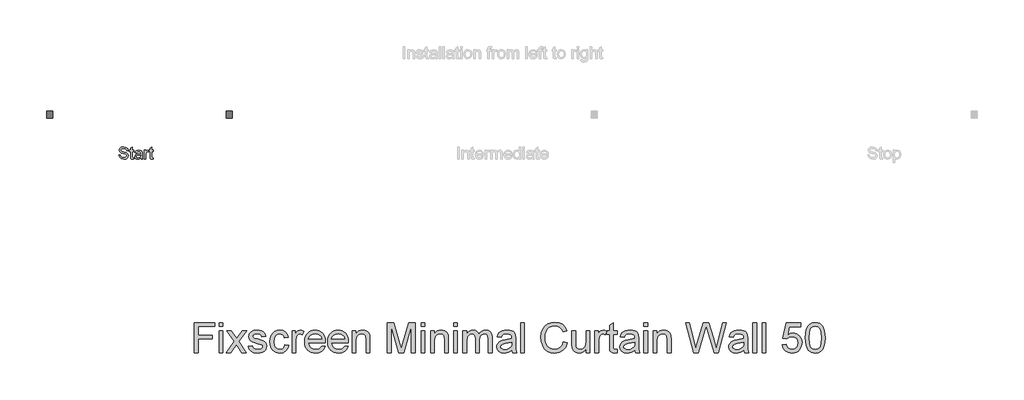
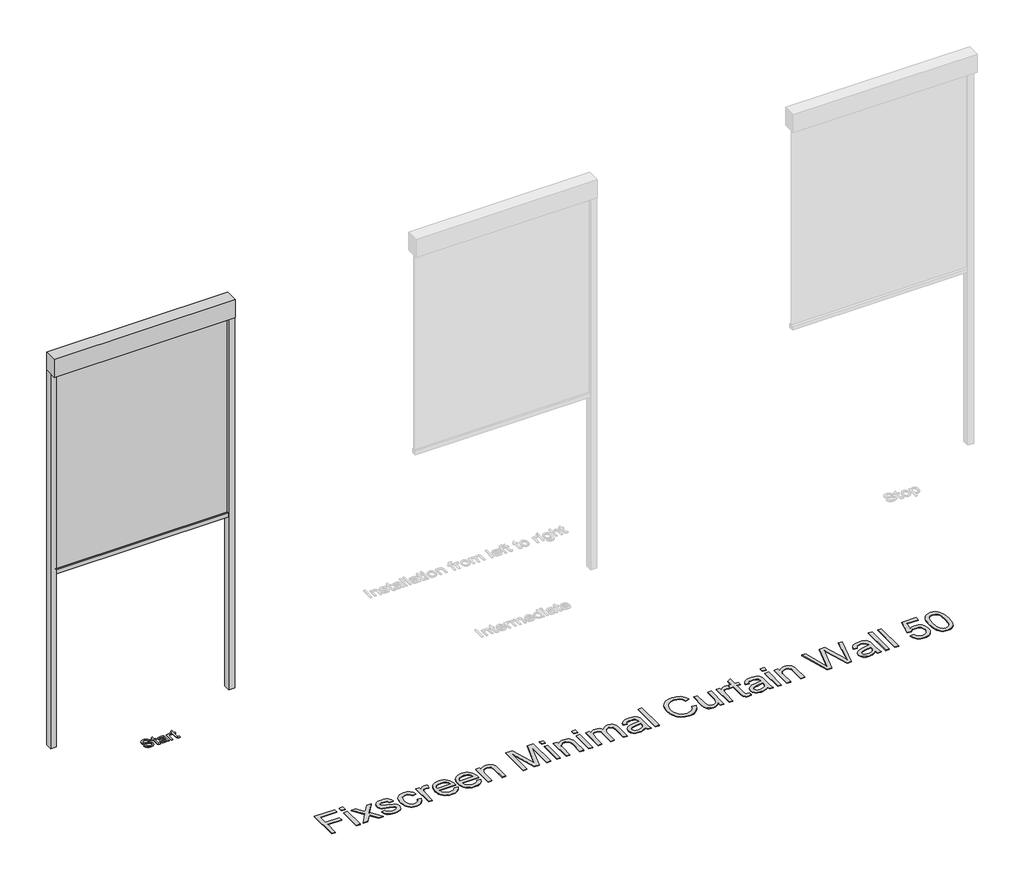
# One storey, part 2 of 8: 3 proxies.
"""IFC4 building model written with IfcOpenShell, lengths in millimetres."""

from ifc_helpers import new_model, si_unit, origin, origin_with_axes, place, context, project, spatial, polyline, outline, extrude, transform, mapped, element, save
from components import generic_models_2005cc21

model = new_model("IFC4")

# Units and contexts
model_context = context("Model", 3, world=origin())
ifc_project = project(units=[si_unit("LENGTHUNIT", "METRE", prefix="MILLI")], contexts=[model_context])

# Site, building, storey
site = spatial("IfcSite", under=ifc_project)
building = spatial("IfcBuilding", under=site)
storey = spatial("IfcBuildingStorey", under=building, Name="Fixscreen Mini CW50 Overview Top", Elevation=0.0)

# Proxies
placement = place(None, origin())
generic_models_shape = generic_models_2005cc21(model_context)
element("IfcBuildingElementProxy", 1, Name="Renson_Fixscreen_Minimal_CW50_Start : For curtain wall - Start element - Access downwards - Fabric close to the window", ObjectType="Renson_Fixscreen_Minimal_CW50_Start : For curtain wall - Start element - Access downwards - Fabric close to the window", at=placement, inside=storey, context=model_context, shape_type="MappedRepresentation", body=[
    mapped(generic_models_shape, transform((-7113.6521319, -2499.9217625, 0.0), x_axis=(1.0000000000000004, 0.0, 0.0), y_axis=(0.0, 1.0000000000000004, 0.0), z_axis=(0.0, 0.0, 1.0))),
])
element("IfcBuildingElementProxy", 2, Name="100mm Arial", ObjectType="100mm Arial", at=placement, inside=storey, context=model_context, shape_type="SweptSolid", body=[
    extrude(outline(polyline([(-7528.8311252, -3561.5189543), (-7516.2740864, -3561.5189543), (-7512.2273845, -3574.0882558), (-7502.3436216, -3582.0345069), (-7487.2849852, -3585.063402), (-7474.1638607, -3582.7702709), (-7465.6903121, -3576.467226), (-7462.9066717, -3568.0427284), (-7464.9913363, -3560.2068419), (-7473.5261986, -3554.5046709), (-7491.8099338, -3549.7099423), (-7511.4916205, -3543.517262), (-7522.1724611, -3534.1730593), (-7525.6918655, -3521.689597), (-7521.3385952, -3507.4770892), (-7508.6221409, -3497.4461735), (-7490.007312, -3494.0248709), (-7470.1416842, -3497.605589), (-7456.8979324, -3508.1270141), (-7451.9192628, -3523.847838), (-7464.4763015, -3523.847838), (-7466.7816954, -3516.355308), (-7471.5886868, -3510.9474427), (-7489.5168027, -3506.5819097), (-7507.4939695, -3510.8983918), (-7513.1348267, -3521.321715), (-7509.1371757, -3530.0282555), (-7488.6338859, -3537.0425389), (-7466.4138134, -3543.3455837), (-7454.2614448, -3553.5236523), (-7450.3496329, -3567.7238973), (-7454.850056, -3582.7457454), (-7467.7995022, -3593.7086289), (-7486.7944759, -3597.6204408), (-7509.2230149, -3593.4020606), (-7523.4109971, -3580.697869), (-7528.8311252, -3561.5189543)])), origin_with_axes(), (0.0, 0.0, 1.0), 5.0),
    extrude(outline(polyline([(-7406.3999972, -3585.5784368), (-7404.8303674, -3596.4186929), (-7414.223621, -3597.6204408), (-7424.745046, -3595.5357761), (-7429.9934958, -3590.0665971), (-7431.5140748, -3575.8173012), (-7431.5140748, -3534.8352469), (-7440.9318538, -3534.8352469), (-7440.9318538, -3522.2782082), (-7431.5140748, -3522.2782082), (-7431.5140748, -3504.3500923), (-7418.957036, -3496.9679269), (-7418.957036, -3522.2782082), (-7406.3999972, -3522.2782082), (-7406.3999972, -3534.8352469), (-7418.957036, -3534.8352469), (-7418.957036, -3575.4494192), (-7418.2948484, -3581.9241423), (-7416.1488701, -3584.2172734), (-7411.8691762, -3585.063402), (-7406.3999972, -3585.5784368)])), origin_with_axes(), (0.0, 0.0, 1.0), 5.0),
    extrude(outline(polyline([(-7346.7540631, -3586.6330318), (-7358.9309571, -3595.1433687), (-7372.3831754, -3597.6204408), (-7382.8770093, -3596.1305187), (-7390.6178596, -3591.6607524), (-7395.3911285, -3584.8733296), (-7396.9822181, -3576.4304378), (-7394.5787224, -3566.497624), (-7388.2634149, -3559.2871369), (-7379.4710352, -3555.1668585), (-7368.6062536, -3553.2783976), (-7346.8276395, -3548.9619155), (-7346.7540631, -3546.1660124), (-7350.2121538, -3536.8953861), (-7364.0935678, -3533.2656171), (-7376.7977593, -3535.6813755), (-7382.8555495, -3544.253026), (-7395.4125883, -3542.6833961), (-7389.9801975, -3530.420663), (-7379.0418395, -3523.2347013), (-7362.474887, -3520.7085783), (-7347.2568351, -3522.9403957), (-7338.6606592, -3528.5444648), (-7334.810161, -3537.0670644), (-7334.1970243, -3548.0544733), (-7334.1970243, -3563.6771953), (-7333.5593622, -3585.4925977), (-7331.0577646, -3596.0508109), (-7343.6148034, -3596.0508109), (-7346.7540631, -3586.6330318)]), holes=[polyline([(-7346.7540631, -3561.5189543), (-7367.0120983, -3565.3694525), (-7377.8155662, -3567.4050662), (-7382.7083967, -3570.7160042), (-7384.4251794, -3575.5475211), (-7380.6850458, -3582.3410752), (-7369.7098996, -3585.063402), (-7357.005708, -3582.0590324), (-7348.8142022, -3574.7872316), (-7346.8276395, -3565.0751469), (-7346.7540631, -3561.5189543)])]), origin_with_axes(), (0.0, 0.0, 1.0), 5.0),
    extrude(outline(polyline([(-7316.931096, -3596.0508109), (-7316.931096, -3522.2782082), (-7305.9436871, -3522.2782082), (-7305.9436871, -3533.1920407), (-7298.1445888, -3523.1365995), (-7290.2964395, -3520.7085783), (-7277.6903498, -3524.583602), (-7281.8842046, -3535.840791), (-7290.7133725, -3533.2656171), (-7297.813495, -3535.7426892), (-7302.3384435, -3542.6098198), (-7304.3740572, -3557.2760486), (-7304.3740572, -3596.0508109), (-7316.931096, -3596.0508109)])), origin_with_axes(), (0.0, 0.0, 1.0), 5.0),
    extrude(outline(polyline([(-7243.1584932, -3585.5784368), (-7241.5888634, -3596.4186929), (-7250.982117, -3597.6204408), (-7261.503542, -3595.5357761), (-7266.7519918, -3590.0665971), (-7268.2725708, -3575.8173012), (-7268.2725708, -3534.8352469), (-7277.6903498, -3534.8352469), (-7277.6903498, -3522.2782082), (-7268.2725708, -3522.2782082), (-7268.2725708, -3504.3500923), (-7255.715532, -3496.9679269), (-7255.715532, -3522.2782082), (-7243.1584932, -3522.2782082), (-7243.1584932, -3534.8352469), (-7255.715532, -3534.8352469), (-7255.715532, -3575.4494192), (-7255.0533444, -3581.9241423), (-7252.9073661, -3584.2172734), (-7248.6276722, -3585.063402), (-7243.1584932, -3585.5784368)])), origin_with_axes(), (0.0, 0.0, 1.0), 5.0),
])
element("IfcBuildingElementProxy", 3, Name="250mm Arial", ObjectType="250mm Arial", at=placement, inside=storey, context=model_context, shape_type="SweptSolid", body=[
    extrude(outline(polyline([(-6898.9749645, -5215.1378577), (-6898.9749645, -4963.9970823), (-6730.2397561, -4963.9970823), (-6730.2397561, -4995.3896792), (-6867.5823676, -4995.3896792), (-6867.5823676, -5069.9470969), (-6749.8601291, -5069.9470969), (-6749.8601291, -5101.3396938), (-6867.5823676, -5101.3396938), (-6867.5823676, -5215.1378577), (-6898.9749645, -5215.1378577)])), origin_with_axes(), (0.0, 0.0, 1.0), 5.0),
    extrude(outline(polyline([(-6690.9990099, -5215.1378577), (-6690.9990099, -5030.7063507), (-6659.606413, -5030.7063507), (-6659.606413, -5215.1378577), (-6690.9990099, -5215.1378577)])), origin_with_axes(), (0.0, 0.0, 1.0), 5.0),
    extrude(outline(polyline([(-6690.9990099, -4995.3896792), (-6690.9990099, -4963.9970823), (-6659.606413, -4963.9970823), (-6659.606413, -4995.3896792), (-6690.9990099, -4995.3896792)])), origin_with_axes(), (0.0, 0.0, 1.0), 5.0),
    extrude(outline(polyline([(-6632.1378907, -5215.1378577), (-6565.0607402, -5122.4315949), (-6628.2138161, -5030.7063507), (-6590.4445979, -5030.7063507), (-6559.971706, -5074.8521902), (-6545.7469355, -5095.6988366), (-6533.4228886, -5078.6536374), (-6498.7193538, -5030.7063507), (-6460.9501356, -5030.7063507), (-6527.291522, -5122.4315949), (-6463.4026822, -5215.1378577), (-6501.1719004, -5215.1378577), (-6539.6155689, -5159.4037354), (-6546.6666405, -5149.2256669), (-6594.3686725, -5215.1378577), (-6632.1378907, -5215.1378577)])), origin_with_axes(), (0.0, 0.0, 1.0), 5.0),
    extrude(outline(polyline([(-6447.7063838, -5160.200813), (-6416.3137868, -5156.2767384), (-6411.3627083, -5169.7044313), (-6401.782448, -5179.5759315), (-6387.5116923, -5185.6459844), (-6368.4891275, -5187.6693353), (-6349.6964889, -5185.814597), (-6336.4833939, -5180.2503818), (-6328.6659015, -5172.1876347), (-6326.0600707, -5162.8373007), (-6328.6812299, -5154.8358673), (-6336.5447076, -5148.7351575), (-6368.8570095, -5139.7833623), (-6416.1298458, -5124.424289), (-6428.0936749, -5116.7064313), (-6436.7618944, -5106.4900417), (-6442.0272055, -5094.426578), (-6443.7823091, -5081.1674977), (-6438.1414519, -5057.7763342), (-6422.7517218, -5039.9034006), (-6402.7941235, -5030.6143802), (-6375.7854537, -5026.7822761), (-6355.3526746, -5028.322782), (-6337.5870399, -5032.9442995), (-6323.3009557, -5040.1946405), (-6313.3068282, -5049.6216167), (-6306.6849523, -5061.9226709), (-6302.515623, -5077.7952461), (-6333.9082199, -5081.7193207), (-6337.8706156, -5071.8401563), (-6345.7111006, -5064.3982101), (-6357.5063171, -5059.7307073), (-6373.3329071, -5058.174873), (-6391.3591248, -5059.6617294), (-6403.3766033, -5064.1222986), (-6410.136435, -5070.5602336), (-6412.3897122, -5077.9791871), (-6408.6495786, -5087.1149233), (-6396.9386684, -5094.0433676), (-6369.8993418, -5100.7265572), (-6323.8221219, -5115.5031506), (-6311.6513592, -5122.5695506), (-6302.4236525, -5132.2417814), (-6296.6065184, -5144.5504998), (-6294.6674738, -5159.5263627), (-6296.9437436, -5175.0080633), (-6303.7725531, -5189.570059), (-6314.8933193, -5202.0703826), (-6330.045459, -5211.3670672), (-6348.3475882, -5217.138216), (-6368.9183231, -5219.0619323), (-6400.5715031, -5215.3524555), (-6423.6714267, -5204.2240251), (-6439.0918137, -5185.7992685), (-6447.7063838, -5160.200813)])), origin_with_axes(), (0.0, 0.0, 1.0), 5.0),
    extrude(outline(polyline([(-6141.6285638, -5148.4285892), (-6110.2359669, -5152.3526638), (-6118.9884927, -5180.2733744), (-6135.4358835, -5201.3729397), (-6158.0299694, -5214.6396841), (-6185.2225802, -5219.0619323), (-6202.8291826, -5217.5195104), (-6218.6155355, -5212.8922446), (-6232.5816389, -5205.1801351), (-6244.7274929, -5194.3831818), (-6254.558756, -5180.7044861), (-6261.5810868, -5164.3471497), (-6267.1989515, -5123.5965545), (-6264.8000543, -5095.6605155), (-6257.6033628, -5071.4492817), (-6245.4939137, -5051.8978865), (-6228.3567441, -5037.9413633), (-6207.8549871, -5029.5720479), (-6185.6517759, -5026.7822761), (-6159.1259512, -5030.6143802), (-6137.919087, -5042.1106926), (-6122.7056336, -5060.6580765), (-6114.1600415, -5085.6433954), (-6145.5526384, -5089.56747), (-6151.2471451, -5075.8715299), (-6160.114634, -5066.0536791), (-6171.6645958, -5060.1445746), (-6185.4065212, -5058.174873), (-6205.6936804, -5062.0529624), (-6221.7961819, -5073.6872305), (-6232.3038114, -5093.7061424), (-6235.8063545, -5122.7381632), (-6232.3804535, -5152.1610586), (-6222.1027502, -5172.2489484), (-6206.2914886, -5183.8142386), (-6186.2649125, -5187.6693353), (-6170.0091269, -5185.262774), (-6156.6810687, -5178.0430898), (-6146.9858453, -5165.8263419), (-6141.6285638, -5148.4285892)])), origin_with_axes(), (0.0, 0.0, 1.0), 5.0),
    extrude(outline(polyline([(-6082.7674445, -5215.1378577), (-6082.7674445, -5030.7063507), (-6055.2989222, -5030.7063507), (-6055.2989222, -5057.990932), (-6045.1515105, -5042.1720063), (-6035.8011765, -5032.852329), (-6016.1808034, -5026.7822761), (-6000.5458186, -5029.2041659), (-5984.6655792, -5036.4698353), (-5995.150216, -5064.612808), (-6017.2231357, -5058.174873), (-6026.5964624, -5059.7230431), (-6034.973442, -5064.3675533), (-6046.2858134, -5081.5353797), (-6051.3748476, -5118.2009519), (-6051.3748476, -5215.1378577), (-6082.7674445, -5215.1378577)])), origin_with_axes(), (0.0, 0.0, 1.0), 5.0),
    extrude(outline(polyline([(-5835.9186258, -5160.200813), (-5805.1391655, -5164.1248877), (-5816.2292748, -5187.3167818), (-5833.9259316, -5204.6532208), (-5857.8305971, -5215.4597544), (-5887.5447324, -5219.0619323), (-5907.0233177, -5217.5080141), (-5924.3789172, -5212.8462594), (-5939.6115311, -5205.0766683), (-5952.7211592, -5194.1992408), (-5963.2632777, -5180.516713), (-5970.7933623, -5164.3318213), (-5975.311413, -5145.6445656), (-5976.8174299, -5124.4549458), (-5975.2960846, -5102.5468066), (-5970.7320486, -5083.236834), (-5963.1253219, -5066.5250279), (-5952.4759046, -5052.4113885), (-5939.4007653, -5041.1986518), (-5924.516873, -5033.1895542), (-5907.8242274, -5028.3840956), (-5889.3228287, -5026.7822761), (-5871.4173223, -5028.3802635), (-5855.2247663, -5033.1742258), (-5840.7451609, -5041.1641629), (-5827.9785061, -5052.3500748), (-5817.5570989, -5066.4330574), (-5810.1132367, -5083.1142066), (-5805.6469193, -5102.3935224), (-5804.1581469, -5124.2710048), (-5804.3420879, -5132.7322907), (-5945.424833, -5132.7322907), (-5939.9909094, -5156.2307532), (-5927.3679584, -5173.5058785), (-5909.1501354, -5184.1284711), (-5886.9315958, -5187.6693353), (-5870.2236218, -5186.0291948), (-5856.1521355, -5181.1087731), (-5844.7171368, -5172.601502), (-5835.9186258, -5160.200813)]), holes=[polyline([(-5945.424833, -5101.3396938), (-5835.5507438, -5101.3396938), (-5839.7967151, -5084.7543472), (-5848.1200453, -5072.8901529), (-5866.4221745, -5061.853693), (-5889.4454561, -5058.174873), (-5910.606335, -5061.1102648), (-5928.1037224, -5069.9164401), (-5940.2668209, -5083.643037), (-5945.424833, -5101.3396938)])]), origin_with_axes(), (0.0, 0.0, 1.0), 5.0),
    extrude(outline(polyline([(-5643.6389696, -5160.200813), (-5612.8595094, -5164.1248877), (-5623.9496187, -5187.3167818), (-5641.6462755, -5204.6532208), (-5665.550941, -5215.4597544), (-5695.2650763, -5219.0619323), (-5714.7436615, -5217.5080141), (-5732.0992611, -5212.8462594), (-5747.3318749, -5205.0766683), (-5760.4415031, -5194.1992408), (-5770.9836215, -5180.516713), (-5778.5137061, -5164.3318213), (-5783.0317569, -5145.6445656), (-5784.5377738, -5124.4549458), (-5783.0164285, -5102.5468066), (-5778.4523925, -5083.236834), (-5770.8456658, -5066.5250279), (-5760.1962484, -5052.4113885), (-5747.1211092, -5041.1986518), (-5732.2372168, -5033.1895542), (-5715.5445713, -5028.3840956), (-5697.0431726, -5026.7822761), (-5679.1376661, -5028.3802635), (-5662.9451102, -5033.1742258), (-5648.4655048, -5041.1641629), (-5635.6988499, -5052.3500748), (-5625.2774428, -5066.4330574), (-5617.8335805, -5083.1142066), (-5613.3672632, -5102.3935224), (-5611.8784907, -5124.2710048), (-5612.0624317, -5132.7322907), (-5753.1451769, -5132.7322907), (-5747.7112532, -5156.2307532), (-5735.0883023, -5173.5058785), (-5716.8704793, -5184.1284711), (-5694.6519396, -5187.6693353), (-5677.9439657, -5186.0291948), (-5663.8724794, -5181.1087731), (-5652.4374807, -5172.601502), (-5643.6389696, -5160.200813)]), holes=[polyline([(-5753.1451769, -5101.3396938), (-5643.2710876, -5101.3396938), (-5647.517059, -5084.7543472), (-5655.8403891, -5072.8901529), (-5674.1425184, -5061.853693), (-5697.1657999, -5058.174873), (-5718.3266789, -5061.1102648), (-5735.8240663, -5069.9164401), (-5747.9871647, -5083.643037), (-5753.1451769, -5101.3396938)])]), origin_with_axes(), (0.0, 0.0, 1.0), 5.0),
    extrude(outline(polyline([(-5580.4858938, -5215.1378577), (-5580.4858938, -5030.7063507), (-5549.0932969, -5030.7063507), (-5549.0932969, -5056.4580904), (-5538.1871286, -5043.4749217), (-5525.0889967, -5034.2012297), (-5509.7989013, -5028.6370145), (-5492.3168423, -5026.7822761), (-5476.8428059, -5028.2767967), (-5462.6716848, -5032.7603585), (-5450.8534757, -5039.6734744), (-5442.4381751, -5048.456657), (-5433.0265274, -5071.5412522), (-5431.3710584, -5101.8915168), (-5431.3710584, -5215.1378577), (-5462.7636553, -5215.1378577), (-5462.7636553, -5106.1221598), (-5466.3811616, -5078.3470691), (-5471.3858896, -5070.0773884), (-5479.165061, -5063.6624461), (-5500.7168145, -5058.174873), (-5519.1032501, -5061.2558848), (-5534.7765559, -5070.4989199), (-5545.5141116, -5088.3565251), (-5549.0932969, -5117.2812469), (-5549.0932969, -5215.1378577), (-5580.4858938, -5215.1378577)])), origin_with_axes(), (0.0, 0.0, 1.0), 5.0),
    extrude(outline(polyline([(-5286.1802977, -5215.1378577), (-5286.1802977, -4963.9970823), (-5232.162958, -4963.9970823), (-5180.782106, -5141.0096356), (-5170.4200965, -5177.9817761), (-5159.1996957, -5137.9439523), (-5108.677235, -4963.9970823), (-5054.6598954, -4963.9970823), (-5054.6598954, -5215.1378577), (-5086.0524923, -5215.1378577), (-5086.0524923, -4995.3896792), (-5149.1442545, -5215.1378577), (-5191.6959386, -5215.1378577), (-5254.7877007, -4995.3896792), (-5254.7877007, -5215.1378577), (-5286.1802977, -5215.1378577)])), origin_with_axes(), (0.0, 0.0, 1.0), 5.0),
    extrude(outline(polyline([(-5003.6469254, -5215.1378577), (-5003.6469254, -5030.7063507), (-4972.2543284, -5030.7063507), (-4972.2543284, -5215.1378577), (-5003.6469254, -5215.1378577)])), origin_with_axes(), (0.0, 0.0, 1.0), 5.0),
    extrude(outline(polyline([(-5003.6469254, -4995.3896792), (-5003.6469254, -4963.9970823), (-4972.2543284, -4963.9970823), (-4972.2543284, -4995.3896792), (-5003.6469254, -4995.3896792)])), origin_with_axes(), (0.0, 0.0, 1.0), 5.0),
    extrude(outline(polyline([(-4925.1654331, -5215.1378577), (-4925.1654331, -5030.7063507), (-4893.7728361, -5030.7063507), (-4893.7728361, -5056.4580904), (-4882.8666678, -5043.4749217), (-4869.7685359, -5034.2012297), (-4854.4784405, -5028.6370145), (-4836.9963815, -5026.7822761), (-4821.5223451, -5028.2767967), (-4807.3512241, -5032.7603585), (-4795.533015, -5039.6734744), (-4787.1177144, -5048.456657), (-4777.7060667, -5071.5412522), (-4776.0505977, -5101.8915168), (-4776.0505977, -5215.1378577), (-4807.4431946, -5215.1378577), (-4807.4431946, -5106.1221598), (-4811.0607009, -5078.3470691), (-4816.0654289, -5070.0773884), (-4823.8446002, -5063.6624461), (-4845.3963538, -5058.174873), (-4863.7827893, -5061.2558848), (-4879.4560952, -5070.4989199), (-4890.1936509, -5088.3565251), (-4893.7728361, -5117.2812469), (-4893.7728361, -5215.1378577), (-4925.1654331, -5215.1378577)])), origin_with_axes(), (0.0, 0.0, 1.0), 5.0),
    extrude(outline(polyline([(-4732.8857769, -5215.1378577), (-4732.8857769, -5030.7063507), (-4701.49318, -5030.7063507), (-4701.49318, -5215.1378577), (-4732.8857769, -5215.1378577)])), origin_with_axes(), (0.0, 0.0, 1.0), 5.0),
    extrude(outline(polyline([(-4732.8857769, -4995.3896792), (-4732.8857769, -4963.9970823), (-4701.49318, -4963.9970823), (-4701.49318, -4995.3896792), (-4732.8857769, -4995.3896792)])), origin_with_axes(), (0.0, 0.0, 1.0), 5.0),
    extrude(outline(polyline([(-4654.4042846, -5215.1378577), (-4654.4042846, -5030.7063507), (-4623.0116877, -5030.7063507), (-4623.0116877, -5061.0566153), (-4613.5693831, -5047.1154206), (-4601.4292773, -5036.1939238), (-4587.0052374, -5029.1351881), (-4570.7111307, -5026.7822761), (-4553.2520643, -5029.1811733), (-4539.2572201, -5036.3778648), (-4528.8032401, -5047.8971698), (-4521.9667663, -5063.2639073), (-4510.5241034, -5047.3031937), (-4497.4719568, -5035.9026839), (-4482.8103265, -5029.0623781), (-4466.5392124, -5026.7822761), (-4442.9411153, -5030.5760592), (-4425.4897131, -5041.9574084), (-4414.7061721, -5061.2328921), (-4411.1116585, -5088.7090786), (-4411.1116585, -5215.1378577), (-4442.5042554, -5215.1378577), (-4442.5042554, -5102.1980851), (-4445.4166545, -5075.986493), (-4455.962605, -5063.0799663), (-4473.8968523, -5058.174873), (-4490.9037304, -5061.3171984), (-4504.7682831, -5070.7441745), (-4513.9883256, -5087.0995949), (-4517.0616731, -5111.027253), (-4517.0616731, -5215.1378577), (-4548.45427, -5215.1378577), (-4548.45427, -5098.7032062), (-4550.2706873, -5080.9528999), (-4555.7199394, -5068.2916279), (-4565.3078639, -5060.7040618), (-4579.5402986, -5058.174873), (-4591.6344192, -5059.8609989), (-4602.7781779, -5064.9193763), (-4611.9752278, -5073.227378), (-4618.2292217, -5084.6623767), (-4623.0116877, -5122.1250265), (-4623.0116877, -5215.1378577), (-4654.4042846, -5215.1378577)])), origin_with_axes(), (0.0, 0.0, 1.0), 5.0),
    extrude(outline(polyline([(-4246.3005246, -5191.59341), (-4261.2993801, -5204.4539514), (-4276.7427597, -5212.869252), (-4292.983217, -5217.5137622), (-4310.3733054, -5219.0619323), (-4336.6078902, -5215.3371271), (-4355.960016, -5204.1627115), (-4367.8931882, -5187.1941544), (-4371.8709123, -5166.086925), (-4370.3687275, -5153.0730994), (-4365.8621731, -5141.2548903), (-4350.0739041, -5123.2286725), (-4328.0929549, -5112.9279767), (-4300.9310009, -5108.2068244), (-4246.4844656, -5097.4156192), (-4246.3005246, -5090.4258613), (-4248.4618313, -5076.4156886), (-4254.9457515, -5067.2492956), (-4269.4464335, -5060.4434787), (-4289.6492864, -5058.174873), (-4308.3499545, -5059.6847221), (-4321.4097653, -5064.2142691), (-4330.3155753, -5072.5912487), (-4336.5542408, -5085.6433954), (-4367.9468377, -5081.7193207), (-4362.4975856, -5064.5514943), (-4354.3658607, -5051.0624878), (-4342.7929063, -5040.7464635), (-4327.0199657, -5033.0975837), (-4307.7291536, -5028.361103), (-4285.6025844, -5026.7822761), (-4264.3803918, -5028.177162), (-4247.5574548, -5032.3618197), (-4234.8731901, -5038.6541347), (-4226.0670149, -5046.3719924), (-4216.4407693, -5067.6784913), (-4214.9079277, -5095.1470136), (-4214.9079277, -5134.2038187), (-4213.3137724, -5188.7423245), (-4207.0597785, -5215.1378577), (-4238.4523754, -5215.1378577), (-4246.3005246, -5191.59341)]), holes=[polyline([(-4246.3005246, -5128.8082161), (-4296.9456126, -5138.4344617), (-4323.9542824, -5143.5234959), (-4336.1863588, -5151.8008408), (-4340.4783154, -5163.879633), (-4338.1407319, -5173.2146386), (-4331.1279813, -5180.8635184), (-4319.593348, -5185.9678811), (-4303.6901159, -5187.6693353), (-4286.8288578, -5185.7916043), (-4271.929637, -5180.1584113), (-4259.8508448, -5171.8580738), (-4251.4508726, -5161.9789094), (-4247.7260674, -5151.8008408), (-4246.4844656, -5137.6986977), (-4246.3005246, -5128.8082161)])]), origin_with_axes(), (0.0, 0.0, 1.0), 5.0),
    extrude(outline(polyline([(-4171.7431069, -5215.1378577), (-4171.7431069, -4963.9970823), (-4140.35051, -4963.9970823), (-4140.35051, -5215.1378577), (-4171.7431069, -5215.1378577)])), origin_with_axes(), (0.0, 0.0, 1.0), 5.0),
    extrude(outline(polyline([(-3814.6523169, -5125.8651602), (-3783.25972, -5133.9585641), (-3797.7450736, -5170.5398299), (-3820.4771152, -5197.2649241), (-3850.3368705, -5213.6126802), (-3886.205365, -5219.0619323), (-3922.6180183, -5214.9385882), (-3951.535076, -5202.5685562), (-3973.6999662, -5182.3810317), (-3989.8561172, -5154.8052104), (-3999.7199531, -5122.3856096), (-4003.0078985, -5087.6667463), (-3999.2907575, -5051.0471594), (-3988.1393345, -5019.4246362), (-3970.1361094, -4993.8031881), (-3945.8635619, -4975.1868263), (-3917.0767958, -4963.8514623), (-3885.5309147, -4960.0730077), (-3851.1109555, -4964.9627725), (-3822.6537503, -4979.6320671), (-3801.0483473, -5003.1765148), (-3787.1837946, -5034.691739), (-3818.5763916, -5042.1720063), (-3829.4595673, -5019.2790163), (-3844.3281312, -5003.5750536), (-3863.3660245, -4994.4929668), (-3886.757188, -4991.4656046), (-3913.7198726, -4994.8225278), (-3935.8694344, -5004.8932974), (-3952.677043, -5020.6202527), (-3963.6138682, -5040.9457329), (-3969.6149432, -5063.9230292), (-3971.6153016, -5087.6054327), (-3969.2470612, -5116.6067966), (-3962.1423402, -5141.684086), (-3950.0328912, -5161.8792746), (-3932.6504669, -5176.2343367), (-3911.8114847, -5184.8105857), (-3889.332362, -5187.6693353), (-3863.128434, -5183.7759176), (-3841.2931048, -5172.0956642), (-3824.8073929, -5152.7512026), (-3814.6523169, -5125.8651602)])), origin_with_axes(), (0.0, 0.0, 1.0), 5.0),
    extrude(outline(polyline([(-3626.2967354, -5215.1378577), (-3626.2967354, -5183.4386924), (-3637.655092, -5199.0238598), (-3650.8835154, -5210.1561223), (-3665.9820056, -5216.8354798), (-3682.9505627, -5219.0619323), (-3698.2406581, -5217.4984338), (-3712.4730928, -5212.8079384), (-3724.4139292, -5205.7568668), (-3732.8292299, -5197.1116399), (-3742.1795639, -5173.9963879), (-3744.0189739, -5144.8110829), (-3744.0189739, -5030.7063507), (-3712.626377, -5030.7063507), (-3712.626377, -5130.0344894), (-3710.7256533, -5162.040223), (-3706.150121, -5172.7164651), (-3698.309636, -5180.8328616), (-3687.7253644, -5185.9602169), (-3674.9184724, -5187.6693353), (-3661.3758165, -5185.9218959), (-3648.7068803, -5180.6795774), (-3638.2605645, -5172.4252252), (-3631.3857697, -5161.6416842), (-3627.568994, -5146.8727549), (-3626.2967354, -5126.6622378), (-3626.2967354, -5030.7063507), (-3594.9041385, -5030.7063507), (-3594.9041385, -5215.1378577), (-3626.2967354, -5215.1378577)])), origin_with_axes(), (0.0, 0.0, 1.0), 5.0),
    extrude(outline(polyline([(-3551.7393177, -5215.1378577), (-3551.7393177, -5030.7063507), (-3524.2707954, -5030.7063507), (-3524.2707954, -5057.990932), (-3514.1233837, -5042.1720063), (-3504.7730497, -5032.852329), (-3485.1526766, -5026.7822761), (-3469.5176918, -5029.2041659), (-3453.6374523, -5036.4698353), (-3464.1220892, -5064.612808), (-3486.1950089, -5058.174873), (-3495.5683356, -5059.7230431), (-3503.9453152, -5064.3675533), (-3515.2576865, -5081.5353797), (-3520.3467208, -5118.2009519), (-3520.3467208, -5215.1378577), (-3551.7393177, -5215.1378577)])), origin_with_axes(), (0.0, 0.0, 1.0), 5.0),
    extrude(outline(polyline([(-3367.3078108, -5188.9569223), (-3363.3837362, -5216.0575626), (-3386.8668702, -5219.0619323), (-3401.9347036, -5217.7590169), (-3413.1704329, -5213.8502707), (-3426.2915574, -5200.1773232), (-3430.0930047, -5164.5540833), (-3430.0930047, -5062.0989477), (-3453.6374523, -5062.0989477), (-3453.6374523, -5030.7063507), (-3430.0930047, -5030.7063507), (-3430.0930047, -4985.886061), (-3398.7004077, -4967.4306476), (-3398.7004077, -5030.7063507), (-3367.3078108, -5030.7063507), (-3367.3078108, -5062.0989477), (-3398.7004077, -5062.0989477), (-3398.7004077, -5163.6343783), (-3397.0449388, -5179.8211861), (-3391.679993, -5185.5540139), (-3380.9807583, -5187.6693353), (-3367.3078108, -5188.9569223)])), origin_with_axes(), (0.0, 0.0, 1.0), 5.0),
    extrude(outline(polyline([(-3218.1929754, -5191.59341), (-3233.1918309, -5204.4539514), (-3248.6352105, -5212.869252), (-3264.8756678, -5217.5137622), (-3282.2657563, -5219.0619323), (-3308.500341, -5215.3371271), (-3327.8524668, -5204.1627115), (-3339.785639, -5187.1941544), (-3343.7633631, -5166.086925), (-3342.2611783, -5153.0730994), (-3337.7546239, -5141.2548903), (-3321.9663549, -5123.2286725), (-3299.9854057, -5112.9279767), (-3272.8234517, -5108.2068244), (-3218.3769164, -5097.4156192), (-3218.1929754, -5090.4258613), (-3220.3542822, -5076.4156886), (-3226.8382023, -5067.2492956), (-3241.3388843, -5060.4434787), (-3261.5417372, -5058.174873), (-3280.2424053, -5059.6847221), (-3293.3022161, -5064.2142691), (-3302.2080261, -5072.5912487), (-3308.4466916, -5085.6433954), (-3339.8392885, -5081.7193207), (-3334.3900365, -5064.5514943), (-3326.2583115, -5051.0624878), (-3314.6853571, -5040.7464635), (-3298.9124165, -5033.0975837), (-3279.6216044, -5028.361103), (-3257.4950353, -5026.7822761), (-3236.2728427, -5028.177162), (-3219.4499056, -5032.3618197), (-3206.765641, -5038.6541347), (-3197.9594657, -5046.3719924), (-3188.3332202, -5067.6784913), (-3186.8003785, -5095.1470136), (-3186.8003785, -5134.2038187), (-3185.2062232, -5188.7423245), (-3178.9522293, -5215.1378577), (-3210.3448262, -5215.1378577), (-3218.1929754, -5191.59341)]), holes=[polyline([(-3218.1929754, -5128.8082161), (-3268.8380634, -5138.4344617), (-3295.8467332, -5143.5234959), (-3308.0788096, -5151.8008408), (-3312.3707662, -5163.879633), (-3310.0331827, -5173.2146386), (-3303.0204322, -5180.8635184), (-3291.4857988, -5185.9678811), (-3275.5825667, -5187.6693353), (-3258.7213086, -5185.7916043), (-3243.8220878, -5180.1584113), (-3231.7432956, -5171.8580738), (-3223.3433234, -5161.9789094), (-3219.6185182, -5151.8008408), (-3218.3769164, -5137.6986977), (-3218.1929754, -5128.8082161)])]), origin_with_axes(), (0.0, 0.0, 1.0), 5.0),
    extrude(outline(polyline([(-3143.6355577, -5215.1378577), (-3143.6355577, -5030.7063507), (-3112.2429608, -5030.7063507), (-3112.2429608, -5215.1378577), (-3143.6355577, -5215.1378577)])), origin_with_axes(), (0.0, 0.0, 1.0), 5.0),
    extrude(outline(polyline([(-3143.6355577, -4995.3896792), (-3143.6355577, -4963.9970823), (-3112.2429608, -4963.9970823), (-3112.2429608, -4995.3896792), (-3143.6355577, -4995.3896792)])), origin_with_axes(), (0.0, 0.0, 1.0), 5.0),
    extrude(outline(polyline([(-3065.1540654, -5215.1378577), (-3065.1540654, -5030.7063507), (-3033.7614685, -5030.7063507), (-3033.7614685, -5056.4580904), (-3022.8553002, -5043.4749217), (-3009.7571683, -5034.2012297), (-2994.4670729, -5028.6370145), (-2976.9850139, -5026.7822761), (-2961.5109775, -5028.2767967), (-2947.3398565, -5032.7603585), (-2935.5216474, -5039.6734744), (-2927.1063468, -5048.456657), (-2917.694699, -5071.5412522), (-2916.0392301, -5101.8915168), (-2916.0392301, -5215.1378577), (-2947.431827, -5215.1378577), (-2947.431827, -5106.1221598), (-2951.0493333, -5078.3470691), (-2956.0540612, -5070.0773884), (-2963.8332326, -5063.6624461), (-2985.3849862, -5058.174873), (-3003.7714217, -5061.2558848), (-3019.4447275, -5070.4989199), (-3030.1822833, -5088.3565251), (-3033.7614685, -5117.2812469), (-3033.7614685, -5215.1378577), (-3065.1540654, -5215.1378577)])), origin_with_axes(), (0.0, 0.0, 1.0), 5.0),
    extrude(outline(polyline([(-2725.9055522, -5215.1378577), (-2794.392917, -4963.9970823), (-2762.0193014, -4963.9970823), (-2722.2880459, -5129.0534708), (-2710.0253128, -5180.0051271), (-2696.9041883, -5134.9395827), (-2647.1174916, -4963.9970823), (-2600.4577919, -4963.9970823), (-2564.282729, -5087.912001), (-2548.7857, -5133.8972504), (-2537.3660297, -5180.0051271), (-2525.4711785, -5130.5249988), (-2485.372041, -4963.9970823), (-2452.9984255, -4963.9970823), (-2521.5471039, -5215.1378577), (-2555.0856791, -5215.1378577), (-2615.295699, -5021.3866735), (-2623.6956712, -4994.3473469), (-2633.1379758, -5026.9049035), (-2688.0137067, -5215.1378577), (-2725.9055522, -5215.1378577)])), origin_with_axes(), (0.0, 0.0, 1.0), 5.0),
    extrude(outline(polyline([(-2307.8076647, -5191.59341), (-2322.8065202, -5204.4539514), (-2338.2498998, -5212.869252), (-2354.490357, -5217.5137622), (-2371.8804455, -5219.0619323), (-2398.1150303, -5215.3371271), (-2417.4671561, -5204.1627115), (-2429.4003283, -5187.1941544), (-2433.3780524, -5166.086925), (-2431.8758676, -5153.0730994), (-2427.3693131, -5141.2548903), (-2411.5810442, -5123.2286725), (-2389.600095, -5112.9279767), (-2362.438141, -5108.2068244), (-2307.9916057, -5097.4156192), (-2307.8076647, -5090.4258613), (-2309.9689714, -5076.4156886), (-2316.4528916, -5067.2492956), (-2330.9535736, -5060.4434787), (-2351.1564265, -5058.174873), (-2369.8570946, -5059.6847221), (-2382.9169054, -5064.2142691), (-2391.8227154, -5072.5912487), (-2398.0613809, -5085.6433954), (-2429.4539778, -5081.7193207), (-2424.0047257, -5064.5514943), (-2415.8730008, -5051.0624878), (-2404.3000464, -5040.7464635), (-2388.5271058, -5033.0975837), (-2369.2362937, -5028.361103), (-2347.1097245, -5026.7822761), (-2325.8875319, -5028.177162), (-2309.0645949, -5032.3618197), (-2296.3803302, -5038.6541347), (-2287.574155, -5046.3719924), (-2277.9479094, -5067.6784913), (-2276.4150678, -5095.1470136), (-2276.4150678, -5134.2038187), (-2274.8209125, -5188.7423245), (-2268.5669186, -5215.1378577), (-2299.9595155, -5215.1378577), (-2307.8076647, -5191.59341)]), holes=[polyline([(-2307.8076647, -5128.8082161), (-2358.4527527, -5138.4344617), (-2385.4614225, -5143.5234959), (-2397.6934989, -5151.8008408), (-2401.9854555, -5163.879633), (-2399.647872, -5173.2146386), (-2392.6351214, -5180.8635184), (-2381.100488, -5185.9678811), (-2365.197256, -5187.6693353), (-2348.3359978, -5185.7916043), (-2333.436777, -5180.1584113), (-2321.3579849, -5171.8580738), (-2312.9580126, -5161.9789094), (-2309.2332074, -5151.8008408), (-2307.9916057, -5137.6986977), (-2307.8076647, -5128.8082161)])]), origin_with_axes(), (0.0, 0.0, 1.0), 5.0),
    extrude(outline(polyline([(-2233.250247, -5215.1378577), (-2233.250247, -4963.9970823), (-2201.8576501, -4963.9970823), (-2201.8576501, -5215.1378577), (-2233.250247, -5215.1378577)])), origin_with_axes(), (0.0, 0.0, 1.0), 5.0),
    extrude(outline(polyline([(-2154.7687547, -5215.1378577), (-2154.7687547, -4963.9970823), (-2123.3761578, -4963.9970823), (-2123.3761578, -5215.1378577), (-2154.7687547, -5215.1378577)])), origin_with_axes(), (0.0, 0.0, 1.0), 5.0),
    extrude(outline(polyline([(-1986.0335463, -5148.4285892), (-1954.6409493, -5144.5045146), (-1948.8774647, -5163.3508026), (-1938.8220235, -5176.8474733), (-1924.520611, -5184.9638698), (-1906.0192123, -5187.6693353), (-1883.5170969, -5183.9062091), (-1866.6558388, -5172.6168304), (-1856.1252167, -5155.1041146), (-1852.6150093, -5132.6709771), (-1855.9029547, -5111.5484192), (-1865.7667907, -5095.3922682), (-1882.2831594, -5085.1375576), (-1905.528703, -5081.7193207), (-1920.7574847, -5083.0835498), (-1933.0891958, -5087.176237), (-1950.7168747, -5101.3396938), (-1982.1094716, -5097.4156192), (-1954.6409493, -4967.9211569), (-1832.9946363, -4967.9211569), (-1832.9946363, -4999.3137538), (-1929.2570917, -4999.3137538), (-1942.6847845, -5068.4755689), (-1920.2593112, -5054.8639351), (-1896.7608488, -5050.3267238), (-1867.4299239, -5055.9522527), (-1843.0807343, -5072.8288392), (-1826.6869929, -5098.549922), (-1821.2224124, -5130.7089398), (-1826.1428341, -5162.1015367), (-1840.9040992, -5188.9569223), (-1853.9485816, -5202.1278642), (-1869.1696991, -5211.5356798), (-1886.5674518, -5217.1803691), (-1906.1418396, -5219.0619323), (-1936.9749494, -5214.2258169), (-1961.5387367, -5199.7174707), (-1978.3770022, -5177.2230195), (-1986.0335463, -5148.4285892)])), origin_with_axes(), (0.0, 0.0, 1.0), 5.0),
    extrude(outline(polyline([(-1793.7538901, -5091.5908209), (-1791.4469634, -5051.3920488), (-1784.5261834, -5019.3326657), (-1773.0605279, -4994.9221625), (-1757.1189748, -4977.6700298), (-1736.5865609, -4967.4153192), (-1711.3483232, -4963.9970823), (-1692.0038616, -4966.0204333), (-1674.682751, -4972.0904862), (-1660.1973974, -4981.9696506), (-1649.360207, -4995.420336), (-1634.6449272, -5032.5764175), (-1630.368299, -5058.2898362), (-1628.9427563, -5091.5908209), (-1631.2266903, -5131.5596669), (-1638.0784925, -5163.5424078), (-1649.4751701, -5187.9759037), (-1665.3937306, -5205.2970143), (-1685.9721297, -5215.6207028), (-1711.3483232, -5219.0619323), (-1728.638777, -5217.5674117), (-1743.9671934, -5213.0838498), (-1757.3335726, -5205.6112468), (-1768.7379144, -5195.1496026), (-1779.6824038, -5176.2381688), (-1787.4998962, -5152.6745606), (-1792.1903916, -5124.4587779), (-1793.7538901, -5091.5908209)]), holes=[polyline([(-1762.3612932, -5091.5295073), (-1758.6824732, -5140.9100009), (-1754.0839483, -5157.7999998), (-1747.6460134, -5169.4898334), (-1731.2139509, -5183.1244599), (-1711.3483232, -5187.6693353), (-1691.4826955, -5183.1091314), (-1675.050633, -5169.4285198), (-1668.6126981, -5157.7195256), (-1664.0141731, -5140.8333588), (-1660.3353532, -5091.5295073), (-1663.8915458, -5043.2603238), (-1668.3367866, -5026.4258904), (-1674.5601237, -5014.4582293), (-1690.9615293, -5000.1568167), (-1711.7162052, -4995.3896792), (-1731.3672351, -4999.5896653), (-1747.1555041, -5012.1896236), (-1753.8080368, -5025.2187776), (-1758.5598459, -5042.7851429), (-1762.3612932, -5091.5295073)])]), origin_with_axes(), (0.0, 0.0, 1.0), 5.0),
])

save(model, "model.ifc")
